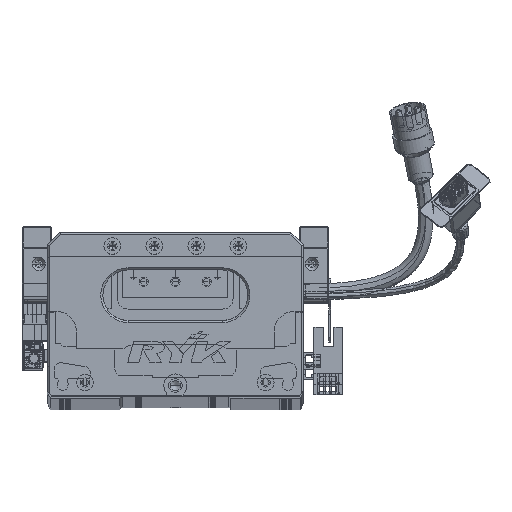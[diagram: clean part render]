
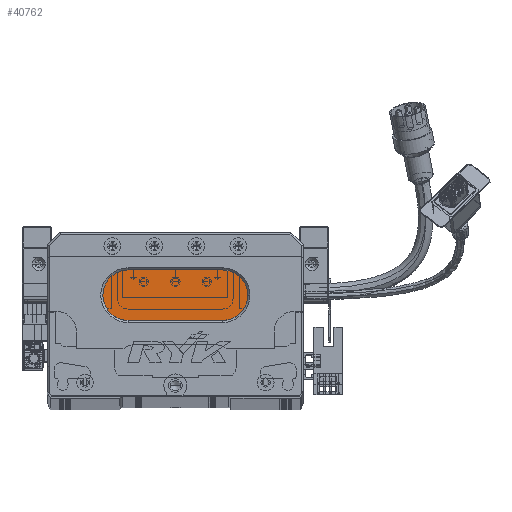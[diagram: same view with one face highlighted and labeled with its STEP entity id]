
A CAD part, top view. The second image highlights one B-rep face of the part: STEP entity #40762.
In plain terms, the highlighted planar face has unit normal (0, 0, 1) as drawn and (0, 0, -1) by its records, which use the part's own axes.
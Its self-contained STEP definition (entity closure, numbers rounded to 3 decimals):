
#5741 = CARTESIAN_POINT ( 'NONE',  ( 83.5, 60., 13. ) ) ;
#6443 = EDGE_LOOP ( 'NONE', ( #133056, #9759, #118976, #114999, #59273 ) ) ;
#8656 = VERTEX_POINT ( 'NONE', #109824 ) ;
#9759 = ORIENTED_EDGE ( 'NONE', *, *, #88859, .T. ) ;
#13153 = AXIS2_PLACEMENT_3D ( 'NONE', #30329, #113262, #39077 ) ;
#19424 = LINE ( 'NONE', #31756, #44091 ) ;
#24888 = PLANE ( 'NONE',  #99920 ) ;
#30329 = CARTESIAN_POINT ( 'NONE',  ( 38.5, 48., 13. ) ) ;
#30440 = CIRCLE ( 'NONE', #106795, 12. ) ;
#31756 = CARTESIAN_POINT ( 'NONE',  ( 83.5, 36., 13. ) ) ;
#31781 = CARTESIAN_POINT ( 'NONE',  ( 83.5, 36., 13. ) ) ;
#33639 = AXIS2_PLACEMENT_3D ( 'NONE', #92211, #83057, #60645 ) ;
#37627 = DIRECTION ( 'NONE',  ( 0., 0., -1. ) ) ;
#39077 = DIRECTION ( 'NONE',  ( -1., 0., 0. ) ) ;
#40762 = ADVANCED_FACE ( 'NONE', ( #102044 ), #24888, .T. ) ;
#42596 = EDGE_CURVE ( 'NONE', #121968, #76554, #96962, .T. ) ;
#44091 = VECTOR ( 'NONE', #115584, 1000. ) ;
#47749 = CARTESIAN_POINT ( 'NONE',  ( 38.5, 48., 13. ) ) ;
#53616 = LINE ( 'NONE', #5741, #106013 ) ;
#54726 = CARTESIAN_POINT ( 'NONE',  ( 83.5, 60., 13. ) ) ;
#57844 = DIRECTION ( 'NONE',  ( -1., 0., 0. ) ) ;
#59273 = ORIENTED_EDGE ( 'NONE', *, *, #91068, .T. ) ;
#60645 = DIRECTION ( 'NONE',  ( -1., 0., 0. ) ) ;
#76554 = VERTEX_POINT ( 'NONE', #132752 ) ;
#77214 = EDGE_CURVE ( 'NONE', #108168, #90130, #81425, .T. ) ;
#78034 = CARTESIAN_POINT ( 'NONE',  ( 83.5, 48., 13. ) ) ;
#81425 = CIRCLE ( 'NONE', #33639, 12. ) ;
#83057 = DIRECTION ( 'NONE',  ( 0., 0., -1. ) ) ;
#88859 = EDGE_CURVE ( 'NONE', #90130, #8656, #19424, .T. ) ;
#90130 = VERTEX_POINT ( 'NONE', #31781 ) ;
#90807 = DIRECTION ( 'NONE',  ( 0., 0., -1. ) ) ;
#91068 = EDGE_CURVE ( 'NONE', #76554, #108168, #53616, .T. ) ;
#92211 = CARTESIAN_POINT ( 'NONE',  ( 83.5, 48., 13. ) ) ;
#96962 = CIRCLE ( 'NONE', #13153, 12. ) ;
#99920 = AXIS2_PLACEMENT_3D ( 'NONE', #78034, #90807, #133773 ) ;
#102044 = FACE_OUTER_BOUND ( 'NONE', #6443, .T. ) ;
#106013 = VECTOR ( 'NONE', #111602, 1000. ) ;
#106795 = AXIS2_PLACEMENT_3D ( 'NONE', #47749, #37627, #57844 ) ;
#108168 = VERTEX_POINT ( 'NONE', #54726 ) ;
#109824 = CARTESIAN_POINT ( 'NONE',  ( 38.5, 36., 13. ) ) ;
#111602 = DIRECTION ( 'NONE',  ( 1., 0., 0. ) ) ;
#113262 = DIRECTION ( 'NONE',  ( 0., 0., -1. ) ) ;
#114116 = CARTESIAN_POINT ( 'NONE',  ( 26.5, 48., 13. ) ) ;
#114999 = ORIENTED_EDGE ( 'NONE', *, *, #42596, .T. ) ;
#115584 = DIRECTION ( 'NONE',  ( -1., 0., 0. ) ) ;
#116012 = EDGE_CURVE ( 'NONE', #8656, #121968, #30440, .T. ) ;
#118976 = ORIENTED_EDGE ( 'NONE', *, *, #116012, .T. ) ;
#121968 = VERTEX_POINT ( 'NONE', #114116 ) ;
#132752 = CARTESIAN_POINT ( 'NONE',  ( 38.5, 60., 13. ) ) ;
#133056 = ORIENTED_EDGE ( 'NONE', *, *, #77214, .T. ) ;
#133773 = DIRECTION ( 'NONE',  ( -1., 0., 0. ) ) ;
